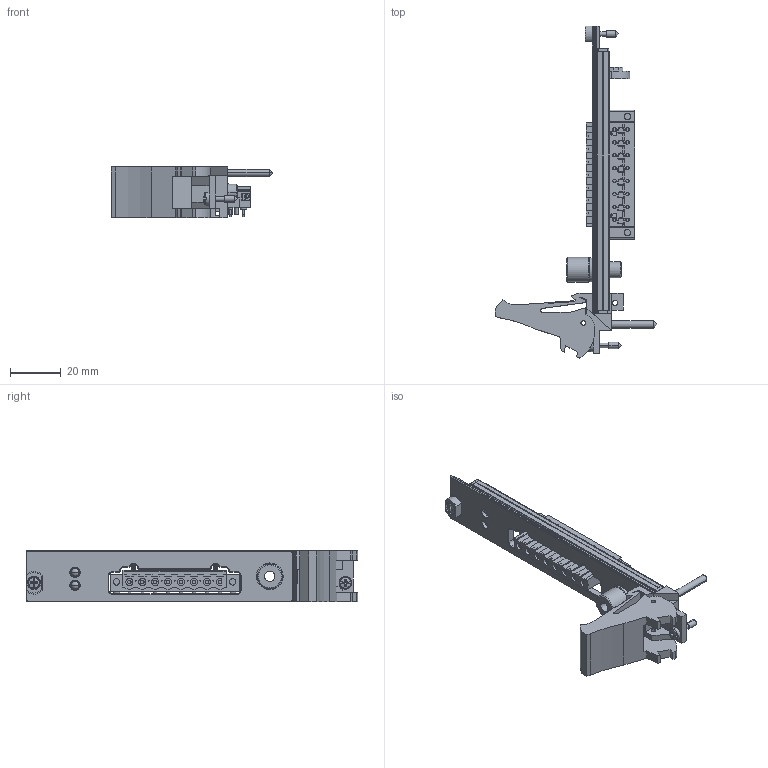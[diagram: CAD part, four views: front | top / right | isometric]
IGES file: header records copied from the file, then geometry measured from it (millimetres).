
Start section:  PTC IGES file: cu_pxi-4132.igs
Global section: file name: cu_pxi-4132.igs; native system: Pro/ENGINEER by Parametric Technology Corporation; preprocessor: 2006080; author: jjorden; organization: Unknown; date: 091228.132038; units: inch
Bounding box: 63.53 x 130.5 x 20.31 mm (x, y, z)
Surface area: 19381.4 mm2 (no closed solid volume)
Topology: 0 solids, 0 shells, 1622 faces, 8068 edges, 8039 vertices
Faces by surface type: bspline 1255, revolution 367
